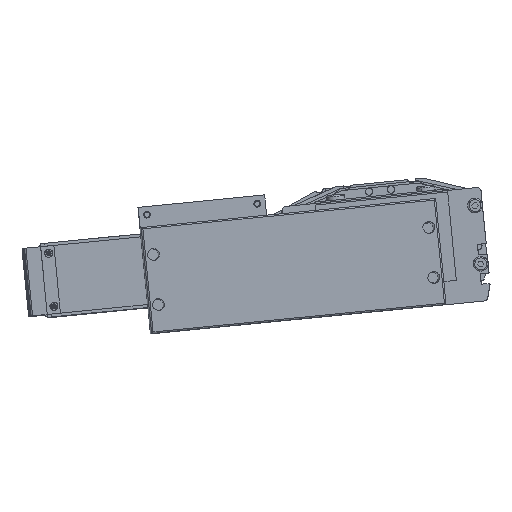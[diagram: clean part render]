
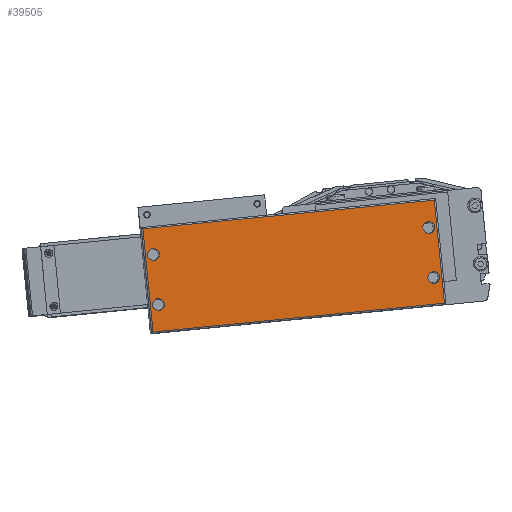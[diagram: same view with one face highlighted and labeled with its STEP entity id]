
A CAD part, top view. The second image highlights one B-rep face of the part: STEP entity #39505.
In plain terms, the highlighted planar face has unit normal (0.017, 0.003, 1) as drawn and (0, 0, 1) by its records, which use the part's own axes.
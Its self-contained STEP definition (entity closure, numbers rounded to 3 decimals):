
#37870 = EDGE_CURVE ( 'NONE', #37951, #37949, #42982, .T. ) ;
#37871 = EDGE_CURVE ( 'NONE', #37877, #37934, #42908, .T. ) ;
#37877 = VERTEX_POINT ( 'NONE', #42970 ) ;
#37885 = VERTEX_POINT ( 'NONE', #43006 ) ;
#37887 = EDGE_CURVE ( 'NONE', #37896, #37885, #43013, .T. ) ;
#37896 = VERTEX_POINT ( 'NONE', #43045 ) ;
#37914 = VERTEX_POINT ( 'NONE', #43073 ) ;
#37915 = EDGE_CURVE ( 'NONE', #37944, #37914, #43077, .T. ) ;
#37934 = VERTEX_POINT ( 'NONE', #43096 ) ;
#37944 = VERTEX_POINT ( 'NONE', #43092 ) ;
#37949 = VERTEX_POINT ( 'NONE', #43086 ) ;
#37951 = VERTEX_POINT ( 'NONE', #43137 ) ;
#39450 = ORIENTED_EDGE ( 'NONE', *, *, #39566, .T. ) ;
#39451 = VERTEX_POINT ( 'NONE', #45706 ) ;
#39455 = ORIENTED_EDGE ( 'NONE', *, *, #37871, .F. ) ;
#39461 = EDGE_LOOP ( 'NONE', ( #39470, #39507 ) ) ;
#39464 = ORIENTED_EDGE ( 'NONE', *, *, #39527, .F. ) ;
#39470 = ORIENTED_EDGE ( 'NONE', *, *, #39475, .F. ) ;
#39475 = EDGE_CURVE ( 'NONE', #37885, #37896, #45743, .T. ) ;
#39492 = ORIENTED_EDGE ( 'NONE', *, *, #39503, .T. ) ;
#39495 = ORIENTED_EDGE ( 'NONE', *, *, #39569, .T. ) ;
#39496 = EDGE_CURVE ( 'NONE', #39451, #39504, #45760, .T. ) ;
#39501 = ORIENTED_EDGE ( 'NONE', *, *, #39496, .T. ) ;
#39503 = EDGE_CURVE ( 'NONE', #39504, #39562, #45788, .T. ) ;
#39504 = VERTEX_POINT ( 'NONE', #45787 ) ;
#39505 = ADVANCED_FACE ( 'NONE', ( #45796, #45781, #45780, #45776, #45775 ), #45782, .T. ) ;
#39507 = ORIENTED_EDGE ( 'NONE', *, *, #37887, .F. ) ;
#39509 = EDGE_LOOP ( 'NONE', ( #39464, #39455 ) ) ;
#39513 = EDGE_CURVE ( 'NONE', #37949, #37951, #45772, .T. ) ;
#39514 = EDGE_LOOP ( 'NONE', ( #39518, #39516 ) ) ;
#39516 = ORIENTED_EDGE ( 'NONE', *, *, #37870, .F. ) ;
#39518 = ORIENTED_EDGE ( 'NONE', *, *, #39513, .F. ) ;
#39519 = EDGE_LOOP ( 'NONE', ( #39522, #39560 ) ) ;
#39522 = ORIENTED_EDGE ( 'NONE', *, *, #39529, .F. ) ;
#39524 = EDGE_LOOP ( 'NONE', ( #39450, #39495, #39501, #39492 ) ) ;
#39527 = EDGE_CURVE ( 'NONE', #37934, #37877, #45767, .T. ) ;
#39529 = EDGE_CURVE ( 'NONE', #37914, #37944, #45774, .T. ) ;
#39560 = ORIENTED_EDGE ( 'NONE', *, *, #37915, .F. ) ;
#39562 = VERTEX_POINT ( 'NONE', #45884 ) ;
#39563 = VERTEX_POINT ( 'NONE', #45871 ) ;
#39566 = EDGE_CURVE ( 'NONE', #39562, #39563, #44365, .T. ) ;
#39569 = EDGE_CURVE ( 'NONE', #39563, #39451, #45906, .T. ) ;
#42908 = CIRCLE ( 'NONE', #42985, 4. ) ;
#42968 = DIRECTION ( 'NONE',  ( 1., 0., 0. ) ) ;
#42970 = CARTESIAN_POINT ( 'NONE',  ( 25.25, 19., 44. ) ) ;
#42971 = DIRECTION ( 'NONE',  ( 0., 0., 1. ) ) ;
#42972 = DIRECTION ( 'NONE',  ( 1., 0., 0. ) ) ;
#42973 = DIRECTION ( 'NONE',  ( 0., 0., 1. ) ) ;
#42974 = CARTESIAN_POINT ( 'NONE',  ( -157.75, 19., 44. ) ) ;
#42975 = CARTESIAN_POINT ( 'NONE',  ( 29.25, 19., 44. ) ) ;
#42982 = CIRCLE ( 'NONE', #42983, 4. ) ;
#42983 = AXIS2_PLACEMENT_3D ( 'NONE', #42974, #42973, #42972 ) ;
#42985 = AXIS2_PLACEMENT_3D ( 'NONE', #42975, #42971, #42968 ) ;
#42997 = DIRECTION ( 'NONE',  ( 1., 0., 0. ) ) ;
#42998 = DIRECTION ( 'NONE',  ( 0., 0., 1. ) ) ;
#42999 = CARTESIAN_POINT ( 'NONE',  ( -157.75, 53., 44. ) ) ;
#43001 = AXIS2_PLACEMENT_3D ( 'NONE', #42999, #42998, #42997 ) ;
#43006 = CARTESIAN_POINT ( 'NONE',  ( -153.75, 53., 44. ) ) ;
#43013 = CIRCLE ( 'NONE', #43001, 4. ) ;
#43045 = CARTESIAN_POINT ( 'NONE',  ( -161.75, 53., 44. ) ) ;
#43066 = DIRECTION ( 'NONE',  ( 1., 0., 0. ) ) ;
#43067 = DIRECTION ( 'NONE',  ( 0., 0., 1. ) ) ;
#43073 = CARTESIAN_POINT ( 'NONE',  ( 33.25, 53., 44. ) ) ;
#43077 = CIRCLE ( 'NONE', #43079, 4. ) ;
#43079 = AXIS2_PLACEMENT_3D ( 'NONE', #43084, #43067, #43066 ) ;
#43084 = CARTESIAN_POINT ( 'NONE',  ( 29.25, 53., 44. ) ) ;
#43086 = CARTESIAN_POINT ( 'NONE',  ( -153.75, 19., 44. ) ) ;
#43092 = CARTESIAN_POINT ( 'NONE',  ( 25.25, 53., 44. ) ) ;
#43096 = CARTESIAN_POINT ( 'NONE',  ( 33.25, 19., 44. ) ) ;
#43137 = CARTESIAN_POINT ( 'NONE',  ( -161.75, 19., 44. ) ) ;
#44363 = VECTOR ( 'NONE', #44623, 1000. ) ;
#44364 = CARTESIAN_POINT ( 'NONE',  ( 35.75, 1., 44. ) ) ;
#44365 = LINE ( 'NONE', #44364, #44363 ) ;
#44623 = DIRECTION ( 'NONE',  ( 1., 0., 0. ) ) ;
#45697 = AXIS2_PLACEMENT_3D ( 'NONE', #45732, #45731, #45730 ) ;
#45706 = CARTESIAN_POINT ( 'NONE',  ( 34.75, 71., 44. ) ) ;
#45730 = DIRECTION ( 'NONE',  ( 1., 0., 0. ) ) ;
#45731 = DIRECTION ( 'NONE',  ( 0., 0., 1. ) ) ;
#45732 = CARTESIAN_POINT ( 'NONE',  ( -157.75, 53., 44. ) ) ;
#45743 = CIRCLE ( 'NONE', #45697, 4. ) ;
#45753 = DIRECTION ( 'NONE',  ( 0., 0., 1. ) ) ;
#45756 = CARTESIAN_POINT ( 'NONE',  ( -164.25, 0., 44. ) ) ;
#45760 = LINE ( 'NONE', #45799, #45798 ) ;
#45767 = CIRCLE ( 'NONE', #45830, 4. ) ;
#45768 = AXIS2_PLACEMENT_3D ( 'NONE', #45833, #45832, #45831 ) ;
#45770 = DIRECTION ( 'NONE',  ( 1., 0., 0. ) ) ;
#45772 = CIRCLE ( 'NONE', #45768, 4. ) ;
#45774 = CIRCLE ( 'NONE', #45812, 4. ) ;
#45775 = FACE_OUTER_BOUND ( 'NONE', #39524, .T. ) ;
#45776 = FACE_BOUND ( 'NONE', #39519, .T. ) ;
#45777 = DIRECTION ( 'NONE',  ( 0., -1., 0. ) ) ;
#45778 = VECTOR ( 'NONE', #45777, 1000. ) ;
#45779 = CARTESIAN_POINT ( 'NONE',  ( -163.25, 0., 44. ) ) ;
#45780 = FACE_BOUND ( 'NONE', #39509, .T. ) ;
#45781 = FACE_BOUND ( 'NONE', #39514, .T. ) ;
#45782 = PLANE ( 'NONE',  #45791 ) ;
#45787 = CARTESIAN_POINT ( 'NONE',  ( -163.25, 71., 44. ) ) ;
#45788 = LINE ( 'NONE', #45779, #45778 ) ;
#45791 = AXIS2_PLACEMENT_3D ( 'NONE', #45756, #45753, #45770 ) ;
#45796 = FACE_BOUND ( 'NONE', #39461, .T. ) ;
#45797 = DIRECTION ( 'NONE',  ( -1., 0., 0. ) ) ;
#45798 = VECTOR ( 'NONE', #45797, 1000. ) ;
#45799 = CARTESIAN_POINT ( 'NONE',  ( -164.25, 71., 44. ) ) ;
#45802 = CARTESIAN_POINT ( 'NONE',  ( 29.25, 53., 44. ) ) ;
#45809 = DIRECTION ( 'NONE',  ( 1., 0., 0. ) ) ;
#45810 = DIRECTION ( 'NONE',  ( 0., 0., 1. ) ) ;
#45812 = AXIS2_PLACEMENT_3D ( 'NONE', #45802, #45817, #45861 ) ;
#45817 = DIRECTION ( 'NONE',  ( 0., 0., 1. ) ) ;
#45818 = CARTESIAN_POINT ( 'NONE',  ( 29.25, 19., 44. ) ) ;
#45830 = AXIS2_PLACEMENT_3D ( 'NONE', #45818, #45810, #45809 ) ;
#45831 = DIRECTION ( 'NONE',  ( 1., 0., 0. ) ) ;
#45832 = DIRECTION ( 'NONE',  ( 0., 0., 1. ) ) ;
#45833 = CARTESIAN_POINT ( 'NONE',  ( -157.75, 19., 44. ) ) ;
#45861 = DIRECTION ( 'NONE',  ( 1., 0., 0. ) ) ;
#45871 = CARTESIAN_POINT ( 'NONE',  ( 34.75, 1., 44. ) ) ;
#45884 = CARTESIAN_POINT ( 'NONE',  ( -163.25, 1., 44. ) ) ;
#45903 = DIRECTION ( 'NONE',  ( 0., 1., 0. ) ) ;
#45904 = VECTOR ( 'NONE', #45903, 1000. ) ;
#45905 = CARTESIAN_POINT ( 'NONE',  ( 34.75, 72., 44. ) ) ;
#45906 = LINE ( 'NONE', #45905, #45904 ) ;
